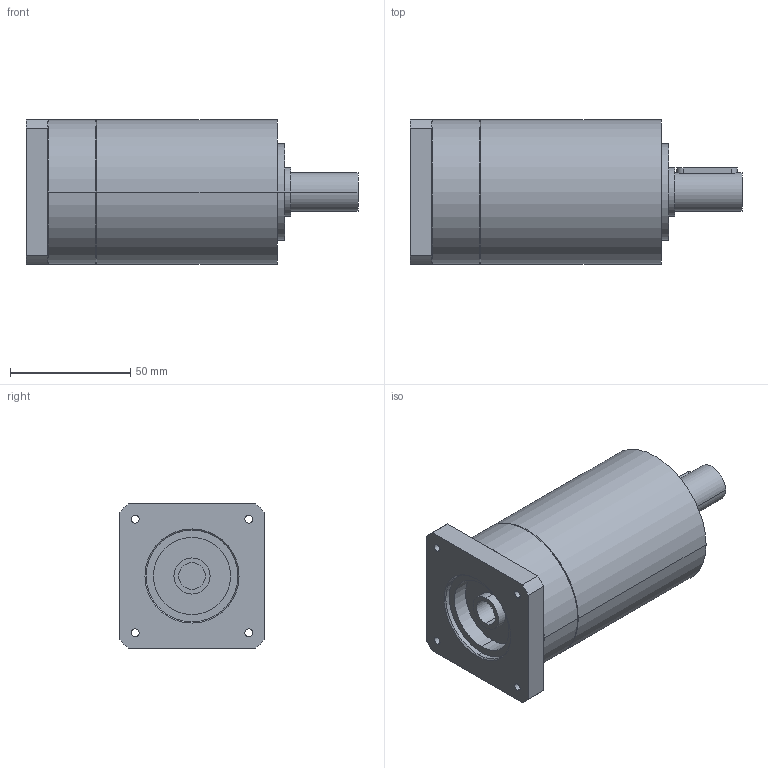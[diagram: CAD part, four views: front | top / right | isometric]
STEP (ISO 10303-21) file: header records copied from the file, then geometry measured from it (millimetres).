
FILE_DESCRIPTION(('CoCreate Modeling STEP Export'),'2;1');
FILE_NAME('GPR75_ig-9-12-16-20-24-30-36_16_B14_11_P28.stp','2014-08-25T16:01:23',(''),(''),'CoCreate Modeling STEP processor for AP214 (Solid Model)','CoCreate Modeling 16.00C 25-Feb-2009 (C) Parametric Technology GmbH','');
FILE_SCHEMA(('AUTOMOTIVE_DESIGN { 1 0 10303 214 1 1 1 1 }'));
Length unit declared in the file: millimetre
Products named in the file (2): GPR75_ig-9-12-16-20-24-30-36_16_B14_11_P28
Assembly tree (1 placements, depth 2):
  GPR75_ig-9-12-16-20-24-30-36_16_B14_11_P28
    GPR75_ig-9-12-16-20-24-30-36_16_B14_11_P28
Bounding box: 137.9 x 60 x 60 mm (x, y, z)
Volume: 301824.9 mm3; surface area: 32335.5 mm2
Topology: 1 solids, 1 shells, 72 faces, 191 edges, 133 vertices
Faces by surface type: cylinder 42, plane 22, cone 8
Entity records: 1974 total; most frequent: ORIENTED_EDGE 378, CARTESIAN_POINT 365, DIRECTION 268, EDGE_CURVE 189, VERTEX_POINT 133, AXIS2_PLACEMENT_3D 100, EDGE_LOOP 94, FACE_OUTER_BOUND 72
